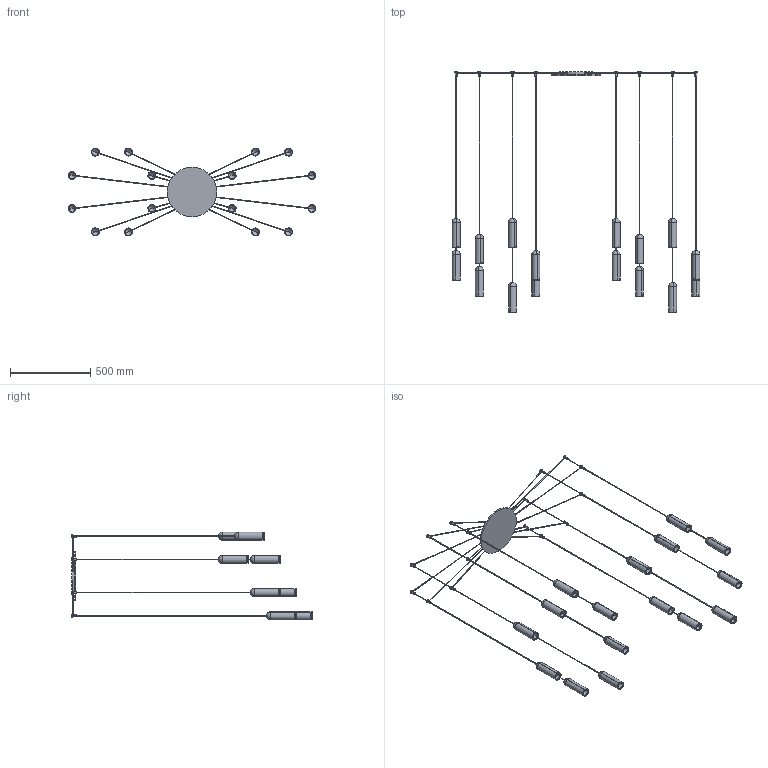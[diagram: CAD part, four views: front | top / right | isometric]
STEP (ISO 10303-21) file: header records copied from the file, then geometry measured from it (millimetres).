
FILE_DESCRIPTION (( 'STEP AP203' ), '1' );
FILE_NAME ('NANB1-00-NANUM 16 B ROSONE CENTRALE.STEP', '2024-07-31T07:25:56', ( '' ), ( '' ), 'SwSTEP 2.0', 'SolidWorks 2022', '' );
FILE_SCHEMA (( 'CONFIG_CONTROL_DESIGN' ));
Length unit declared in the file: millimetre
Products named in the file (7): NANUM_LAMPADA SINGOLA_H=1700; NANUM_Rosone diam.310_16B<A macchina>; NANUM_LAMPADA SINGOLA_H=1800; NANUM_LAMPADA SINGOLA_H=1500; NANB1-00-NANUM 16 B ROSONE CENTRALE; NANUM_LAMPADA SINGOLA_H=1600; NANUM_LAMPADA SINGOLA_H=1900
Assembly tree (17 placements, depth 2):
  NANB1-00-NANUM 16 B ROSONE CENTRALE
    NANUM_Rosone diam.310_16B<A macchina>
    NANUM_LAMPADA SINGOLA_H=1600  x4
    NANUM_LAMPADA SINGOLA_H=1500  x2
    NANUM_LAMPADA SINGOLA_H=1700  x4
    NANUM_LAMPADA SINGOLA_H=1900  x4
    NANUM_LAMPADA SINGOLA_H=1800  x2
Bounding box: 1548.81 x 1500 x 548.88 mm (x, y, z)
Volume: 2714141.6 mm3; surface area: 1475697 mm2
Topology: 49 solids, 49 shells, 583 faces, 1276 edges, 728 vertices
Faces by surface type: cylinder 292, plane 131, cone 64, sphere 64, torus 32
Entity records: 6953 total; most frequent: CARTESIAN_POINT 1305, DIRECTION 1106, ORIENTED_EDGE 824, AXIS2_PLACEMENT_3D 485, EDGE_CURVE 412, VERTEX_POINT 256, EDGE_LOOP 252, CIRCLE 234
